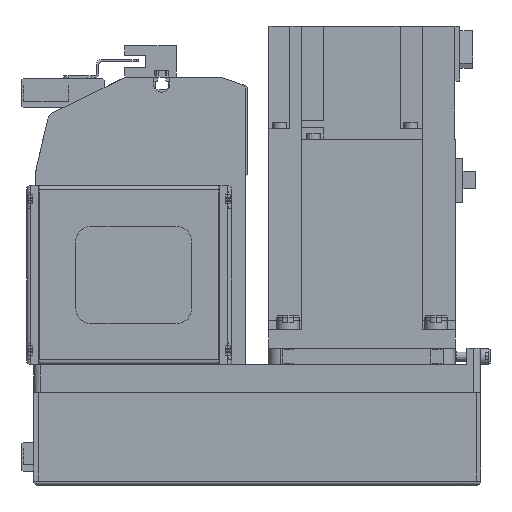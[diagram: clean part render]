
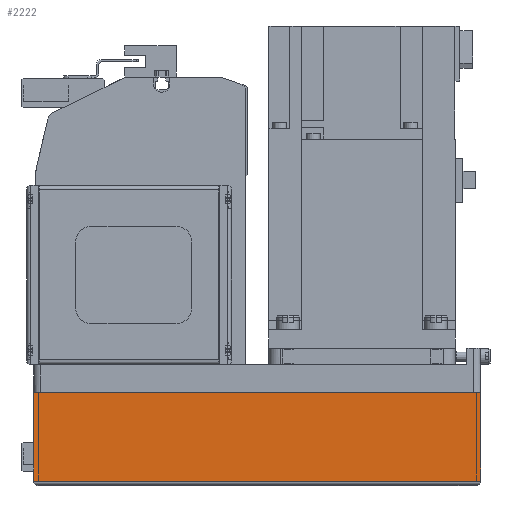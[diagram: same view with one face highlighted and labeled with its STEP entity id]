
A CAD part, left-side view. The second image highlights one B-rep face of the part: STEP entity #2222.
In plain terms, the highlighted planar face has unit normal (-1, 0, 0) as drawn and (0, 1, 0) by its records, which use the part's own axes.
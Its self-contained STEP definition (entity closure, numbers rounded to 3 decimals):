
#2222 = ADVANCED_FACE( '', ( #5131 ), #5132, .T. );
#5131 = FACE_OUTER_BOUND( '', #8811, .T. );
#5132 = PLANE( '', #8812 );
#8811 = EDGE_LOOP( '', ( #15120, #15121, #15122, #15123 ) );
#8812 = AXIS2_PLACEMENT_3D( '', #15124, #15125, #15126 );
#15120 = ORIENTED_EDGE( '', *, *, #22941, .F. );
#15121 = ORIENTED_EDGE( '', *, *, #21961, .F. );
#15122 = ORIENTED_EDGE( '', *, *, #22942, .T. );
#15123 = ORIENTED_EDGE( '', *, *, #22943, .T. );
#15124 = CARTESIAN_POINT( '', ( -192., 40., -50. ) );
#15125 = DIRECTION( '', ( 0., 1., 0. ) );
#15126 = DIRECTION( '', ( 0., 0., 1. ) );
#21961 = EDGE_CURVE( '', #26732, #26734, #26735, .T. );
#22941 = EDGE_CURVE( '', #26734, #28228, #28229, .T. );
#22942 = EDGE_CURVE( '', #26732, #25697, #28230, .T. );
#22943 = EDGE_CURVE( '', #25697, #28228, #28231, .T. );
#25697 = VERTEX_POINT( '', #32144 );
#26732 = VERTEX_POINT( '', #33627 );
#26734 = VERTEX_POINT( '', #33629 );
#26735 = LINE( '', #33630, #33631 );
#28228 = VERTEX_POINT( '', #35953 );
#28229 = LINE( '', #35954, #35955 );
#28230 = LINE( '', #35956, #35957 );
#28231 = LINE( '', #35958, #35959 );
#32144 = CARTESIAN_POINT( '', ( -192., 40., -12.1 ) );
#33627 = CARTESIAN_POINT( '', ( -192., 40., -50. ) );
#33629 = CARTESIAN_POINT( '', ( 0., 40., -50. ) );
#33630 = CARTESIAN_POINT( '', ( -192., 40., -50. ) );
#33631 = VECTOR( '', #40500, 1000. );
#35953 = CARTESIAN_POINT( '', ( 0., 40., -12.1 ) );
#35954 = CARTESIAN_POINT( '', ( 0., 40., -50. ) );
#35955 = VECTOR( '', #41680, 1000. );
#35956 = CARTESIAN_POINT( '', ( -192., 40., -50. ) );
#35957 = VECTOR( '', #41681, 1000. );
#35958 = CARTESIAN_POINT( '', ( -192., 40., -12.1 ) );
#35959 = VECTOR( '', #41682, 1000. );
#40500 = DIRECTION( '', ( 1., 0., 0. ) );
#41680 = DIRECTION( '', ( 0., 0., 1. ) );
#41681 = DIRECTION( '', ( 0., 0., 1. ) );
#41682 = DIRECTION( '', ( 1., 0., 0. ) );
